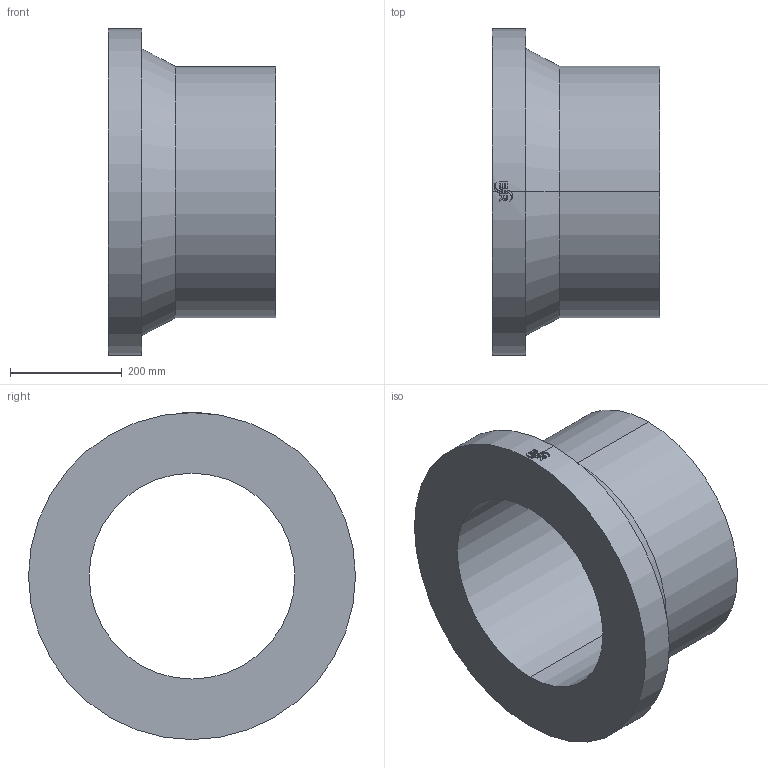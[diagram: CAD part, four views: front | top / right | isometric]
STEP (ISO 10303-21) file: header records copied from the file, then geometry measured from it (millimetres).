
FILE_DESCRIPTION (( 'STEP AP214' ), '1' );
FILE_NAME ('233526F015.STEP', '2018-07-20T10:32:23', ( '' ), ( '' ), 'SwSTEP 2.0', 'SolidWorks 2017', '' );
FILE_SCHEMA (( 'AUTOMOTIVE_DESIGN' ));
Length unit declared in the file: millimetre
Products named in the file (1): 233526F015
Bounding box: 300 x 585 x 585.5 mm (x, y, z)
Volume: 23775814.2 mm3; surface area: 1091028.9 mm2
Topology: 1 solids, 1 shells, 60 faces, 154 edges, 102 vertices
Faces by surface type: cylinder 29, plane 29, cone 2
Entity records: 3070 total; most frequent: CARTESIAN_POINT 953, ORIENTED_EDGE 308, DIRECTION 282, EDGE_CURVE 154, AXIS2_PLACEMENT_3D 107, VERTEX_POINT 102, LINE 68, VECTOR 68
